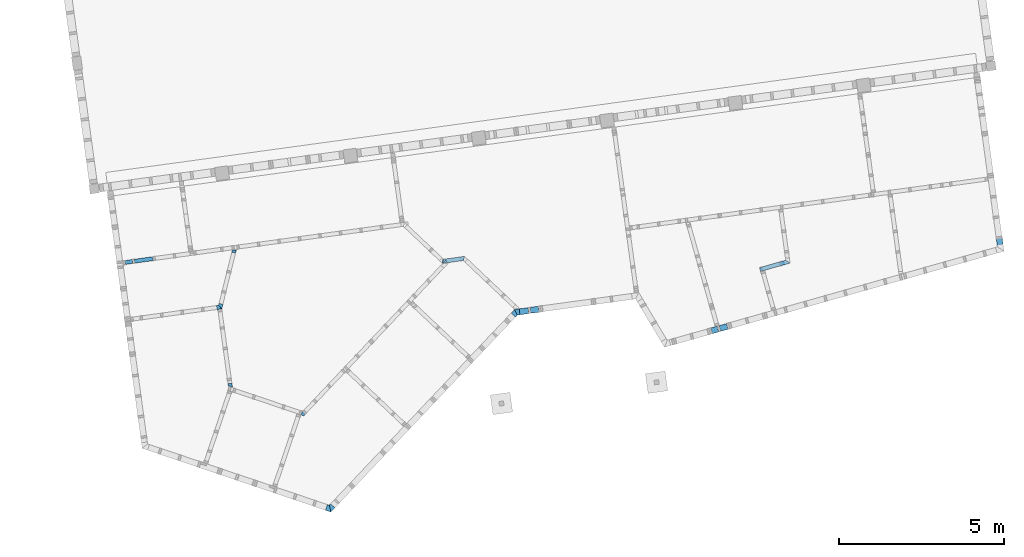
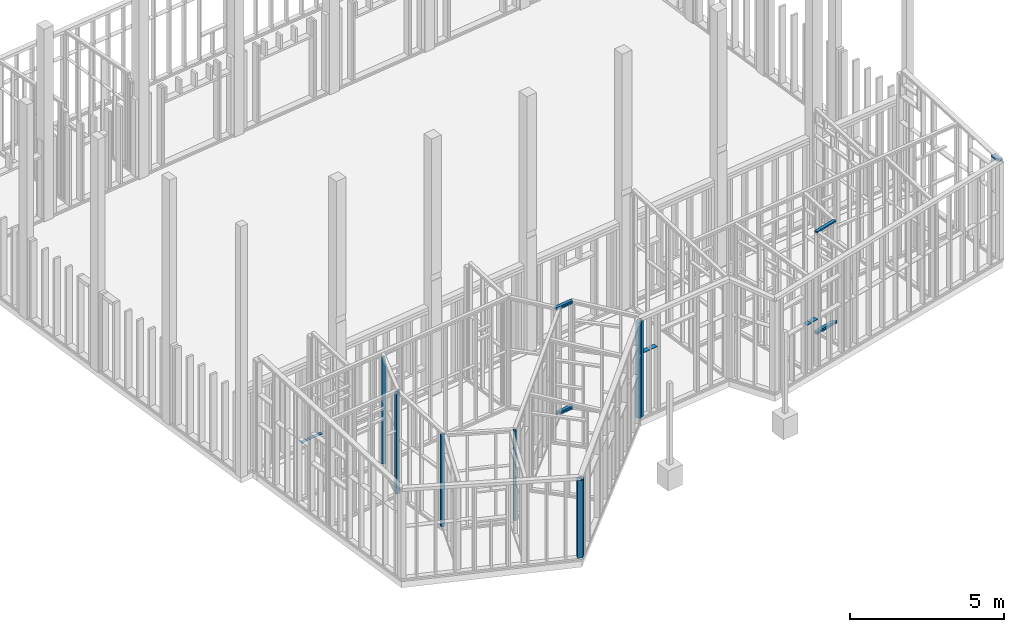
# One storey, part 22 of 24: 11 beams, 9 slabs.
"""IFC2X3 building model written with IfcOpenShell, lengths in metres."""

import ifcopenshell
import ifcopenshell.guid

model = None  # the IFC model being written
_history = None  # IfcOwnerHistory: only IFC2X3 demands one
_inside = {}  # id of a spatial element -> (the spatial element, [elements in it])
_under = {}  # id of a project, library or spatial element -> (it, [spatial elements below it])
_declared = {}  # id of a project -> (the project, [libraries it declares])
_typed = {}  # id of a type object -> (the type object, [elements of that type])
_made_of = {}  # id of a material, layer set ... -> (it, [elements and type objects made of it])


def new_model(schema):
    """Start an empty IFC model of exactly this schema.

    Asked for "IFC4X3", IfcOpenShell would pick the latest addendum, in which some entities
    have other attributes; the version numbers below select the first issue.
    IFC2X3 requires an IfcOwnerHistory on every rooted entity: one is made here for all.
    """
    global model, _history
    if schema == "IFC4X3":
        model = ifcopenshell.file(schema_version=(4, 3, 0, 0))
    else:
        model = ifcopenshell.file(schema=schema)
    _inside.clear()
    _under.clear()
    _declared.clear()
    _typed.clear()
    _made_of.clear()
    _history = None
    if model.schema == "IFC2X3":
        org = make("IfcOrganization", Name="unknown")
        user = make(
            "IfcPersonAndOrganization",
            ThePerson=make("IfcPerson", FamilyName="unknown"),
            TheOrganization=org,
        )
        app = make(
            "IfcApplication",
            ApplicationDeveloper=org,
            Version="unknown",
            ApplicationFullName="unknown",
            ApplicationIdentifier="unknown",
        )
        _history = make(
            "IfcOwnerHistory",
            OwningUser=user,
            OwningApplication=app,
            ChangeAction="ADDED",
            CreationDate=0,
        )
    return model


def make(cls, **values):
    """One entity of the class cls with the attributes given. An attribute that is None is left unset."""
    return model.create_entity(
        cls, **{name: value for name, value in values.items() if value is not None}
    )


def entity(cls, *values):
    """Any entity or typed value of the class cls, its attributes in the order of the schema. None: left unset."""
    e = model.create_entity(cls)
    for i, value in enumerate(values):
        if value is not None:
            e[i] = value
    return e


def rooted(cls, **values):
    """An entity with a GlobalId (a new one), such as an element, a storey or a relation."""
    return make(cls, GlobalId=ifcopenshell.guid.new(), OwnerHistory=_history, **values)


def si_unit(unit_type, name, prefix=None):
    """IfcSIUnit, for example si_unit("LENGTHUNIT", "METRE", prefix="MILLI")."""
    return make("IfcSIUnit", UnitType=unit_type, Prefix=prefix, Name=name)


def converted_unit(unit_type, name, factor, base, dimensions=None, offset=None):
    """IfcConversionBasedUnit, such as the inch: factor (a typed value) times the base unit."""
    return make(
        "IfcConversionBasedUnit"
        if offset is None
        else "IfcConversionBasedUnitWithOffset",
        ConversionOffset=offset,
        Dimensions=None
        if dimensions is None
        else entity("IfcDimensionalExponents", *dimensions),
        UnitType=unit_type,
        Name=name,
        ConversionFactor=make(
            "IfcMeasureWithUnit", ValueComponent=factor, UnitComponent=base
        ),
    )


def derived_unit(unit_type, elements):
    """IfcDerivedUnit: a product of units, each with its exponent."""
    return make(
        "IfcDerivedUnit",
        Elements=[
            make("IfcDerivedUnitElement", Unit=unit, Exponent=power)
            for unit, power in elements
        ],
        UnitType=unit_type,
    )


def money_unit(currency):
    """IfcMonetaryUnit."""
    return make("IfcMonetaryUnit", Currency=currency)


def assignment(units):
    """IfcUnitAssignment: the units of a project."""
    return None if units is None else make("IfcUnitAssignment", Units=units)


def point(xyz):
    """IfcCartesianPoint."""
    return None if xyz is None else make("IfcCartesianPoint", Coordinates=xyz)


def direction(xyz):
    """IfcDirection."""
    return None if xyz is None else make("IfcDirection", DirectionRatios=xyz)


def frame(location, z_axis=None, x_axis=None):
    """IfcAxis2Placement3D, a coordinate frame: its origin and axes. An axis left out is left unset."""
    return make(
        "IfcAxis2Placement3D",
        Location=point(location),
        Axis=direction(z_axis),
        RefDirection=direction(x_axis),
    )


def frame_2d(location, x_axis=None):
    """IfcAxis2Placement2D, a coordinate frame in the plane: its origin and x axis."""
    return make(
        "IfcAxis2Placement2D", Location=point(location), RefDirection=direction(x_axis)
    )


def origin_with_axes():
    """The frame at (0, 0, 0) with the z axis (0, 0, 1) and the x axis (1, 0, 0) written out."""
    return frame((0.0, 0.0, 0.0), z_axis=(0.0, 0.0, 1.0), x_axis=(1.0, 0.0, 0.0))


def place(relative_to, where):
    """IfcLocalPlacement: puts the frame where relative to a parent placement (None: the world)."""
    return make(
        "IfcLocalPlacement", PlacementRelTo=relative_to, RelativePlacement=where
    )


def context(
    kind, dimensions, precision=None, world=None, true_north=None, identifier=None
):
    """IfcGeometricRepresentationContext, for example the 3D "Model" context."""
    return make(
        "IfcGeometricRepresentationContext",
        ContextIdentifier=identifier,
        ContextType=kind,
        CoordinateSpaceDimension=dimensions,
        Precision=precision,
        WorldCoordinateSystem=world,
        TrueNorth=true_north,
    )


def subcontext(parent, identifier, kind, view, scale=None):
    """IfcGeometricRepresentationSubContext, for example "Body" below "Model"."""
    return make(
        "IfcGeometricRepresentationSubContext",
        ContextIdentifier=identifier,
        ContextType=kind,
        ParentContext=parent,
        TargetScale=scale,
        TargetView=view,
    )


def project(units=None, contexts=None):
    """IfcProject with its units and contexts."""
    return rooted(
        "IfcProject",
        Name="project",
        RepresentationContexts=contexts,
        UnitsInContext=assignment(units),
    )


def spatial(cls, under=None, at=None, **own):
    """A site, building, storey or space (cls), placed at a placement, below another one or the project."""
    s = rooted(cls, ObjectPlacement=at, **own)
    if under is not None:
        _under.setdefault(under.id(), (under, []))[1].append(s)
    return s


def profile(cls, at=None, kind="AREA", **sizes):
    """A parametric profile (cls). Its sizes go by their IFC names, for example OverallWidth=200.0."""
    return make(cls, ProfileType=kind, Position=at, **sizes)


def rectangle(**sizes):
    """IfcRectangleProfileDef."""
    return profile("IfcRectangleProfileDef", **sizes)


def extrude(swept, where, along, depth):
    """IfcExtrudedAreaSolid: the profile swept, set in the frame where, extruded along a direction by depth."""
    return make(
        "IfcExtrudedAreaSolid",
        SweptArea=swept,
        Position=where,
        ExtrudedDirection=direction(along),
        Depth=depth,
    )


def boolean(op, a, b):
    """IfcBooleanResult of two solids."""
    return make("IfcBooleanResult", Operator=op, FirstOperand=a, SecondOperand=b)


def clip(a, b, op="DIFFERENCE"):
    """IfcBooleanClippingResult: the solid a cut by the half space b."""
    return make(
        "IfcBooleanClippingResult", Operator=op, FirstOperand=a, SecondOperand=b
    )


def halfspace(plane, agree):
    """IfcHalfSpaceSolid: all space on one side of the plane z = 0 of the frame plane."""
    return make(
        "IfcHalfSpaceSolid",
        BaseSurface=make("IfcPlane", Position=plane),
        AgreementFlag=agree,
    )


def faces_of(points, faces, orient=None, outer=None):
    """IfcFace entities. A face is a list of loops; a loop is a list of indices into points, from 0.

    orient and outer hold one flag for each loop. By default every Orientation is true, the
    first loop of a face is its IfcFaceOuterBound and the others are IfcFaceBound.
    """
    made = []
    for i, loops in enumerate(faces):
        bounds = []
        for j, loop in enumerate(loops):
            is_outer = j == 0 if outer is None else outer[i][j]
            bounds.append(
                make(
                    "IfcFaceOuterBound" if is_outer else "IfcFaceBound",
                    Bound=make("IfcPolyLoop", Polygon=[points[k] for k in loop]),
                    Orientation=True if orient is None else orient[i][j],
                )
            )
        made.append(make("IfcFace", Bounds=bounds))
    return made


def faceted_brep(points, faces, orient=None, outer=None, voids=None):
    """IfcFacetedBrep: a solid bounded by flat faces; with voids (closed shells), ...WithVoids."""
    shared = [point(p) for p in points]
    hull = make("IfcClosedShell", CfsFaces=faces_of(shared, faces, orient, outer))
    if voids is None:
        return make("IfcFacetedBrep", Outer=hull)
    return make(
        "IfcFacetedBrepWithVoids",
        Outer=hull,
        Voids=[
            make(cls, CfsFaces=faces_of(shared, fs, o, b)) for cls, fs, o, b in voids
        ],
    )


def shape(context_of_items, identifier, shape_type, items):
    """IfcShapeRepresentation: the items that make up one representation, for example the "Body"."""
    return make(
        "IfcShapeRepresentation",
        ContextOfItems=context_of_items,
        RepresentationIdentifier=identifier,
        RepresentationType=shape_type,
        Items=items,
    )


def material(Name=None, Category=None):
    """IfcMaterial."""
    return make("IfcMaterial", Name=Name, Category=Category)


def made_of(thing, what):
    """Note that an element or type object is made of a material, layer set ...; save() writes the relation."""
    if what is not None:
        _made_of.setdefault(what.id(), (what, []))[1].append(thing)
    return thing


def type_object(cls, material=None, **own):
    """A type object (cls), such as IfcWallType, which elements share."""
    return made_of(rooted(cls, **own), material)


def element(
    cls,
    number,
    at=None,
    inside=None,
    cuts=None,
    type_object=None,
    material=None,
    context=None,
    identifier="Body",
    shape_type=None,
    held_by="IfcProductDefinitionShape",
    body=None,
    shapes=None,
    **own,
):
    """One element of the class cls, such as IfcWall. Its Tag is "e" and its number.

    at: its placement. inside: the storey or other place that contains it. cuts: it is an
    opening in that element (IfcRelVoidsElement). A single representation is given by context,
    identifier, shape_type and body (its items); several are given by shapes. held_by: the class
    of the entity that holds the representations. save() writes the other relations.
    """
    e = rooted(cls, Tag="e%d" % number, ObjectPlacement=at, **own)
    if body is not None:
        shapes = [shape(context, identifier, shape_type, body)]
    if shapes is not None:
        e.Representation = make(held_by, Representations=shapes)
    if inside is not None:
        _inside.setdefault(inside.id(), (inside, []))[1].append(e)
    if cuts is not None:
        rooted(
            "IfcRelVoidsElement", RelatingBuildingElement=cuts, RelatedOpeningElement=e
        )
    if type_object is not None:
        _typed.setdefault(type_object.id(), (type_object, []))[1].append(e)
    return made_of(e, material)


def aggregate(whole, parts):
    """IfcRelAggregates: a whole, such as a stair, and the parts it consists of."""
    return rooted("IfcRelAggregates", RelatingObject=whole, RelatedObjects=parts)


def save(model, path):
    """Write the relations noted so far, then the file.

    IfcRelAggregates (storeys below a building ...), IfcRelContainedInSpatialStructure (elements
    in a storey), IfcRelDefinesByType, IfcRelAssociatesMaterial and IfcRelDeclares: one each for
    every whole, place, type object, material and project.
    """
    for whole, parts in _under.values():
        aggregate(whole, parts)
    for where, things in _inside.values():
        rooted(
            "IfcRelContainedInSpatialStructure",
            RelatedElements=things,
            RelatingStructure=where,
        )
    for kind, things in _typed.values():
        rooted("IfcRelDefinesByType", RelatedObjects=things, RelatingType=kind)
    for what, things in _made_of.values():
        rooted("IfcRelAssociatesMaterial", RelatedObjects=things, RelatingMaterial=what)
    for by, libraries in _declared.values():
        rooted("IfcRelDeclares", RelatingContext=by, RelatedDefinitions=libraries)
    model.write(path)


model = new_model("IFC2X3")

# Units and contexts
model_context = context("Model", 3, precision=1e-05, world=origin_with_axes(), true_north=direction((0.0, 1.0)))
body_context = subcontext(model_context, "Body", "Model", "MODEL_VIEW")
ifc_project = project(units=[si_unit("LENGTHUNIT", "METRE"), si_unit("AREAUNIT", "SQUARE_METRE"), si_unit("VOLUMEUNIT", "CUBIC_METRE"), converted_unit("PLANEANGLEUNIT", "DEGREE", entity("IfcPlaneAngleMeasure", 0.0174532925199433), si_unit("PLANEANGLEUNIT", "RADIAN"), dimensions=[0, 0, 0, 0, 0, 0, 0]), money_unit("EUR"), converted_unit("TIMEUNIT", "Year", entity("IfcTimeMeasure", 31557600.0), si_unit("TIMEUNIT", "SECOND"), dimensions=[0, 0, 1, 0, 0, 0, 0]), si_unit("MASSUNIT", "GRAM", prefix="KILO"), si_unit("THERMODYNAMICTEMPERATUREUNIT", "DEGREE_CELSIUS"), si_unit("LUMINOUSINTENSITYUNIT", "LUMEN"), si_unit("ENERGYUNIT", "JOULE", prefix="MEGA"), derived_unit("THERMALCONDUCTANCEUNIT", [(si_unit("POWERUNIT", "WATT"), 1), (si_unit("LENGTHUNIT", "METRE"), -1), (si_unit("THERMODYNAMICTEMPERATUREUNIT", "KELVIN"), -1)]), derived_unit("SPECIFICHEATCAPACITYUNIT", [(si_unit("ENERGYUNIT", "JOULE"), 1), (si_unit("MASSUNIT", "GRAM", prefix="KILO"), -1), (si_unit("THERMODYNAMICTEMPERATUREUNIT", "KELVIN"), -1)]), derived_unit("MASSDENSITYUNIT", [(si_unit("MASSUNIT", "GRAM", prefix="KILO"), 1), (si_unit("VOLUMEUNIT", "CUBIC_METRE"), -1)])], contexts=[model_context])

# Site, building, storey
site_placement = place(None, origin_with_axes())
site = spatial("IfcSite", under=ifc_project, at=site_placement, Name="Gelände", CompositionType="ELEMENT")
building_placement = place(site_placement, origin_with_axes())
building = spatial("IfcBuilding", under=site, at=building_placement, Name="Gebäude", CompositionType="ELEMENT")
storey_placement = place(building_placement, origin_with_axes())
storey = spatial("IfcBuildingStorey", under=building, at=storey_placement, Name="EG", CompositionType="ELEMENT", Elevation=0.0)

# Beams
ifc_material_1 = material(Name="Bauholz")
beam_type_1 = type_object("IfcBeamType", Name="Bauholz 120 x 60", PredefinedType="NOTDEFINED")
beam_1_placement = place(storey_placement, frame((107.5596450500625, -153.2186816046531, -0.04299999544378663), z_axis=(0.0, 0.0, 1.0), x_axis=(-0.2723508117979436, 0.9621980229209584, 0.0)))
element("IfcBeam", 1, at=beam_1_placement, inside=storey, type_object=beam_type_1, material=ifc_material_1, Name="Unterzug-021", context=body_context, shape_type="CSG", body=[
    boolean("DIFFERENCE", extrude(rectangle(XDim=0.06, YDim=0.12, at=frame_2d((-0.03, 0.0), x_axis=(1.0, 0.0))), frame((0.0, -0.05217280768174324, 0.0), z_axis=(0.0, 1.0, 0.0), x_axis=(0.0, 0.0, 1.0)), (0.0, 0.0, 1.0), 0.9237465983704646), faceted_brep([(0.06000000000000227, 0.05215324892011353, 0.0), (-0.06000000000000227, -0.05215280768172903, 0.0), (-0.05999999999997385, -0.05217280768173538, 0.0), (0.06000000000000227, -0.05217280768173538, 0.0), (-0.06000000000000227, -0.05215280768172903, -0.06), (0.06000000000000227, 0.05215324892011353, -0.06), (-0.05999999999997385, -0.05217280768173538, -0.06), (0.06000000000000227, -0.05217280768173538, -0.06)], [[[0, 1, 2, 3]], [[4, 1, 0, 5]], [[1, 4, 6, 2]], [[6, 7, 3, 2]], [[5, 0, 3, 7]], [[4, 5, 7, 6]]])),
])
beam_2_placement = place(storey_placement, frame((107.5596448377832, -153.2186816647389, 3.937425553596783), z_axis=(0.0, 0.0, 1.0), x_axis=(-0.2723508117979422, 0.9621980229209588, 0.0)))
element("IfcBeam", 2, at=beam_2_placement, inside=storey, type_object=beam_type_1, material=ifc_material_1, Name="Unterzug-021", context=body_context, shape_type="CSG", body=[
    boolean("DIFFERENCE", clip(clip(extrude(rectangle(XDim=0.06, YDim=0.12, at=frame_2d((-0.03, 0.0), x_axis=(1.0, 0.0))), frame((0.0, -0.05099903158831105, 0.0009980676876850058), z_axis=(0.0, 0.9998085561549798, -0.01956657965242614), x_axis=(0.0, 0.01956657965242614, 0.9998085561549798)), (0.0, 0.0, 1.0), 0.9273297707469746), halfspace(frame((0.0, 0.0, 0.0), z_axis=(0.0, 1.0, 0.0), x_axis=(0.0, 0.0, 1.0)), True)), halfspace(frame((0.0, 0.8728326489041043, 0.0), z_axis=(0.0, -1.0, 0.0), x_axis=(0.0, 0.0, -1.0)), True)), faceted_brep([(0.05999999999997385, 0.05215303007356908, -0.001020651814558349), (-0.00490487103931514, 0.0, 0.0), (0.05999999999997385, 0.0, 0.0), (0.004904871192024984, 0.0, -0.06001148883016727), (0.05999999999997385, 0.0442706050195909, -0.06087787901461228), (0.05999999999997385, 0.0, -0.06001148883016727)], [[[0, 1, 2]], [[3, 1, 0, 4]], [[1, 3, 5, 2]], [[4, 0, 2, 5]], [[3, 4, 5]]])),
])
beam_3_placement = place(storey_placement, frame((97.13570908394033, -153.2084280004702, -0.04300000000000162), z_axis=(0.0, 0.0, 1.0), x_axis=(0.1357110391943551, -0.9907484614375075, 0.0)))
element("IfcBeam", 3, at=beam_3_placement, inside=storey, type_object=beam_type_1, material=ifc_material_1, Name="Unterzug-021", context=body_context, shape_type="CSG", body=[
    boolean("DIFFERENCE", boolean("DIFFERENCE", boolean("DIFFERENCE", extrude(rectangle(XDim=0.06, YDim=0.12, at=frame_2d((-0.03, 0.0), x_axis=(1.0, 0.0))), frame((0.0, -0.02878469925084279, 0.0), z_axis=(0.0, 1.0, 0.0), x_axis=(0.0, 0.0, 1.0)), (0.0, 0.0, 1.0), 0.6969990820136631), faceted_brep([(0.06000000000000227, -0.0287646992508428, 0.0), (-0.06000000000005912, 0.02876453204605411, 0.0), (-0.05999999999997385, -0.02878469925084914, 0.0), (0.06000000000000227, -0.02878469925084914, 0.0), (-0.06000000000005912, 0.02876453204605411, -0.06), (0.06000000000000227, -0.0287646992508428, -0.06), (-0.05999999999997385, -0.02878469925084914, -0.06), (0.06000000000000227, -0.02878469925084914, -0.06)], [[[0, 1, 2, 3]], [[4, 1, 0, 5]], [[1, 4, 6, 2]], [[6, 7, 3, 2]], [[5, 0, 3, 7]], [[4, 5, 7, 6]]])), faceted_brep([(0.05999999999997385, -0.01878219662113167, 0.0), (0.05999999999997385, -0.01878219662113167, -0.06), (0.06000000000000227, 0.1390214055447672, -0.06), (0.06000000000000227, 0.1390214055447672, 0.0), (-0.01704515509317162, 0.07713542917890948, 0.0), (-0.01704515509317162, 0.07713542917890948, -0.06)], [[[0, 1, 2, 3]], [[0, 4, 5, 1]], [[5, 2, 1]], [[4, 3, 2, 5]], [[4, 0, 3]]])), faceted_brep([(-0.06000000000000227, 0.6681943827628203, -0.06), (-0.06000000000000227, 0.6681943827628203, 0.0), (-0.06000000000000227, 0.6682143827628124, 0.0), (-0.06000000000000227, 0.6682143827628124, -0.06), (0.06000000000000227, 0.6106651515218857, 0.0), (0.06000000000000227, 0.6106651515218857, -0.06), (0.06000000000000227, 0.6682143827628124, 0.0), (0.06000000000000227, 0.6682143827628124, -0.06)], [[[0, 1, 2, 3]], [[4, 1, 0, 5]], [[1, 4, 6, 2]], [[6, 7, 3, 2]], [[5, 0, 3, 7]], [[4, 5, 7, 6]]])),
])
beam_4_placement = place(storey_placement, frame((97.1357090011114, -153.208428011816, 4.133874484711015), z_axis=(0.0, 0.0, 1.0), x_axis=(0.1357110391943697, -0.9907484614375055, 0.0)))
element("IfcBeam", 4, at=beam_4_placement, inside=storey, type_object=beam_type_1, material=ifc_material_1, Name="Unterzug-021", context=body_context, shape_type="CSG", body=[
    boolean("DIFFERENCE", boolean("DIFFERENCE", boolean("DIFFERENCE", extrude(rectangle(XDim=0.06, YDim=0.12, at=frame_2d((-0.03, 0.0), x_axis=(1.0, 0.0))), frame((0.0, -0.02917327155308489, 0.0), z_axis=(0.0, 1.0, 0.0), x_axis=(0.0, 0.0, 1.0)), (0.0, 0.0, 1.0), 0.6977366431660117), faceted_brep([(0.06000000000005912, -0.02532766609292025, 0.0), (-0.06000000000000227, 0.02911352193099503, 0.0), (-0.05999999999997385, -0.02917327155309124, 0.0), (0.06000000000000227, -0.02917327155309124, 0.0), (-0.06000000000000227, 0.02528791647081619, -0.05999999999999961), (0.06000000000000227, -0.02915327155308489, -0.05999999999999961), (-0.05999999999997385, -0.02917327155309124, -0.05999999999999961), (0.06000000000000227, -0.02917327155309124, -0.05999999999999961)], [[[0, 1, 2, 3]], [[4, 1, 0, 5]], [[1, 4, 6, 2]], [[6, 7, 3, 2]], [[5, 0, 3, 7]], [[4, 5, 7, 6]]])), faceted_brep([(0.06000000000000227, -0.01878211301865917, -0.01500666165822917), (0.06000000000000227, -0.01878211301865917, -0.05999999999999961), (0.06000000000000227, 0.1403064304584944, -0.05999999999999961), (0.06000000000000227, 0.1403064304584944, -0.004090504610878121), (-0.01767250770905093, 0.07791653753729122, -0.05999999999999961), (-0.01767250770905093, 0.07791653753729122, -0.004090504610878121)], [[[0, 1, 2, 3]], [[4, 1, 0, 5]], [[4, 2, 1]], [[3, 2, 4, 5]], [[0, 3, 5]]])), faceted_brep([(-0.05999999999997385, 0.6647177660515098, -0.05999999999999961), (-0.06000000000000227, 0.668543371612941, 0.0), (-0.06000000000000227, 0.6685633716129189, 0.0), (-0.06000000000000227, 0.6685633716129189, -0.05999999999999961), (0.06000000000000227, 0.6141021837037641, 0.0), (0.0600000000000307, 0.6102765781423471, -0.05999999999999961), (0.06000000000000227, 0.6685633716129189, 0.0), (0.06000000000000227, 0.6685633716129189, -0.05999999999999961)], [[[0, 1, 2, 3]], [[4, 1, 0, 5]], [[1, 4, 6, 2]], [[6, 7, 3, 2]], [[5, 0, 3, 7]], [[4, 5, 7, 6]]])),
])
beam_type_2 = type_object("IfcBeamType", Name="Bauholz 120 x 15", PredefinedType="NOTDEFINED")
beam_5_placement = place(storey_placement, frame((87.53172956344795, -153.2432850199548, 2.149999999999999), z_axis=(0.0, 0.0, 1.0), x_axis=(0.1357111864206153, -0.9907484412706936, 0.0)))
element("IfcBeam", 5, at=beam_5_placement, inside=storey, type_object=beam_type_2, material=ifc_material_1, Name="Unterzug-021", context=body_context, shape_type="CSG", body=[
    boolean("DIFFERENCE", extrude(rectangle(XDim=0.015, YDim=0.12, at=frame_2d((-0.0075, 0.0), x_axis=(1.0, 0.0))), frame((0.0, 0.0, 0.0), z_axis=(0.0, 1.0, 0.0), x_axis=(0.0, 0.0, 1.0)), (0.0, 0.0, 1.0), 0.8474194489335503), faceted_brep([(0.06000003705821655, 0.282419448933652, -0.01500000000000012), (0.06000003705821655, 0.282419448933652, 0.0), (0.06000003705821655, 0.2224194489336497, 0.0), (0.06000003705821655, 0.2224194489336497, -0.01500000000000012), (-0.05999996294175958, 0.2824194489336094, 0.0), (-0.05999996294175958, 0.2824194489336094, -0.01500000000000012), (-0.05999996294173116, 0.2224194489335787, 0.0), (-0.05999996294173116, 0.2224194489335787, -0.01500000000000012)], [[[0, 1, 2, 3]], [[4, 1, 0, 5]], [[1, 4, 6, 2]], [[7, 3, 2, 6]], [[5, 0, 3, 7]], [[4, 5, 7, 6]]])),
])
ifc_material_2 = material(Name="Holz, Bauholz")
beam_type_3 = type_object("IfcBeamType", Name="Holz, Bauholz 120 x 60", PredefinedType="NOTDEFINED")
beam_6_placement = place(storey_placement, frame((107.5596450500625, -153.2186816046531, -0.1029999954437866), z_axis=(0.0, 0.0, 1.0), x_axis=(-0.2723508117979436, 0.9621980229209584, 0.0)))
element("IfcBeam", 6, at=beam_6_placement, inside=storey, type_object=beam_type_3, material=ifc_material_2, Name="Unterzug-021", context=body_context, shape_type="CSG", body=[
    boolean("DIFFERENCE", extrude(rectangle(XDim=0.06, YDim=0.12, at=frame_2d((-0.03, 0.0), x_axis=(1.0, 0.0))), frame((0.0, -0.05217280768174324, 0.0), z_axis=(0.0, 1.0, 0.0), x_axis=(0.0, 0.0, 1.0)), (0.0, 0.0, 1.0), 0.9237465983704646), faceted_brep([(0.06000000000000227, 0.05215324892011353, 0.0), (-0.06000000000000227, -0.05215280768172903, 0.0), (-0.05999999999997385, -0.05217280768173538, 0.0), (0.06000000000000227, -0.05217280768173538, 0.0), (-0.06000000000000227, -0.05215280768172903, -0.06), (0.06000000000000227, 0.05215324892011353, -0.06), (-0.05999999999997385, -0.05217280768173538, -0.06), (0.06000000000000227, -0.05217280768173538, -0.06)], [[[0, 1, 2, 3]], [[4, 1, 0, 5]], [[1, 4, 6, 2]], [[6, 7, 3, 2]], [[5, 0, 3, 7]], [[4, 5, 7, 6]]])),
])
beam_7_placement = place(storey_placement, frame((97.13570908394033, -153.2084280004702, -0.1030000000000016), z_axis=(0.0, 0.0, 1.0), x_axis=(0.1357110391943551, -0.9907484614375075, 0.0)))
element("IfcBeam", 7, at=beam_7_placement, inside=storey, type_object=beam_type_3, material=ifc_material_2, Name="Unterzug-021", context=body_context, shape_type="CSG", body=[
    boolean("DIFFERENCE", boolean("DIFFERENCE", boolean("DIFFERENCE", extrude(rectangle(XDim=0.06, YDim=0.12, at=frame_2d((-0.03, 0.0), x_axis=(1.0, 0.0))), frame((0.0, -0.02878469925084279, 0.0), z_axis=(0.0, 1.0, 0.0), x_axis=(0.0, 0.0, 1.0)), (0.0, 0.0, 1.0), 0.6969990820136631), faceted_brep([(0.06000000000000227, -0.0287646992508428, 0.0), (-0.06000000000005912, 0.02876453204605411, 0.0), (-0.05999999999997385, -0.02878469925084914, 0.0), (0.06000000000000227, -0.02878469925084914, 0.0), (-0.06000000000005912, 0.02876453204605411, -0.06), (0.06000000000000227, -0.0287646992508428, -0.06), (-0.05999999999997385, -0.02878469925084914, -0.06), (0.06000000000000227, -0.02878469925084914, -0.06)], [[[0, 1, 2, 3]], [[4, 1, 0, 5]], [[1, 4, 6, 2]], [[6, 7, 3, 2]], [[5, 0, 3, 7]], [[4, 5, 7, 6]]])), faceted_brep([(0.05999999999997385, -0.01878219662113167, 0.0), (0.05999999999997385, -0.01878219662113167, -0.06), (0.06000000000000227, 0.1390214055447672, -0.06), (0.06000000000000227, 0.1390214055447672, 0.0), (-0.01704515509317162, 0.07713542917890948, 0.0), (-0.01704515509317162, 0.07713542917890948, -0.06)], [[[0, 1, 2, 3]], [[0, 4, 5, 1]], [[5, 2, 1]], [[4, 3, 2, 5]], [[4, 0, 3]]])), faceted_brep([(-0.06000000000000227, 0.6681943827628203, -0.06), (-0.06000000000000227, 0.6681943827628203, 0.0), (-0.06000000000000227, 0.6682143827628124, 0.0), (-0.06000000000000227, 0.6682143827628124, -0.06), (0.06000000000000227, 0.6106651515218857, 0.0), (0.06000000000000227, 0.6106651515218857, -0.06), (0.06000000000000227, 0.6682143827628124, 0.0), (0.06000000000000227, 0.6682143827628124, -0.06)], [[[0, 1, 2, 3]], [[4, 1, 0, 5]], [[1, 4, 6, 2]], [[6, 7, 3, 2]], [[5, 0, 3, 7]], [[4, 5, 7, 6]]])),
])
beam_8_placement = place(storey_placement, frame((97.1357090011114, -153.208428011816, 4.073874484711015), z_axis=(0.0, 0.0, 1.0), x_axis=(0.1357110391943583, -0.990748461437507, 0.0)))
element("IfcBeam", 8, at=beam_8_placement, inside=storey, type_object=beam_type_3, material=ifc_material_2, Name="Unterzug-021", context=body_context, shape_type="CSG", body=[
    boolean("DIFFERENCE", boolean("DIFFERENCE", extrude(rectangle(XDim=0.06, YDim=0.12, at=frame_2d((-0.03, 0.0), x_axis=(1.0, 0.0))), frame((0.0, -0.02921302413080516, 0.0), z_axis=(0.0, 1.0, 0.0), x_axis=(0.0, 0.0, 1.0)), (0.0, 0.0, 1.0), 0.6634095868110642), faceted_brep([(0.05999999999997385, -0.02921302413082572, -0.05999999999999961), (0.05999999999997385, -0.02921302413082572, 0.0), (-0.06000000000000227, -0.0292130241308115, 0.0), (-0.06000000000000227, -0.0292130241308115, -0.05999999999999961), (0.05999999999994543, -0.02876461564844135, -0.05999999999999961), (0.05999999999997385, -0.02876461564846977, -0.005032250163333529), (0.05999999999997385, -0.01878211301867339, -0.005032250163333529), (0.05999999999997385, -0.01878211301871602, -0.05999999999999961), (0.05999999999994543, 0.1390214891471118, -0.05999999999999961), (0.05999999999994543, 0.1390214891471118, -0.004410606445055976), (0.05999999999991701, 0.140306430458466, -0.004322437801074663), (0.05999999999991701, 0.140306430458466, 0.0), (0.05999999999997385, -0.01878211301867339, 0.0), (0.05999999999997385, -0.01878211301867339, -0.004195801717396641), (0.05999999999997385, -0.02876461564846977, -0.003510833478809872), (0.05999999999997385, -0.02876461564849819, 0.0), (0.05969078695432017, -0.02901298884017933, 0.0), (-0.004171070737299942, -4.03604889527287e-05, 0.0), (-0.04012913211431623, 0.04472574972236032, 0.0), (-0.04012913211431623, -0.001412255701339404, 0.0), (-0.06000000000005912, 0.02332604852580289, 0.0), (-0.06000000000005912, -0.02919302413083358, -0.05756642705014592), (-0.06000000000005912, -0.02919302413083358, -0.05999999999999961), (-0.06000000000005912, 0.02332604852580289, -0.0571932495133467), (-0.0600000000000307, 0.02876461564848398, -0.05756642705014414), (-0.04268423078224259, -0.02919302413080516, -0.05999999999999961), (-0.04268423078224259, 0.04267338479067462, -0.05999999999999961), (0.0150419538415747, -0.02919302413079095, -0.05999999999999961), (0.05946665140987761, -0.02919302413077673, -0.05999999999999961), (0.05946665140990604, -0.02919302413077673, -0.005032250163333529), (-0.004322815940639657, -0.02919302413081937, -0.005032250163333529), (-0.004322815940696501, 0.06129679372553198, -0.005032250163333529), (-0.01027445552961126, 0.0687063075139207, -0.004195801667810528), (-0.01767250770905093, 0.0779165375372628, -1.063949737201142e-06), (-0.01767250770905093, 0.0779165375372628, -0.004322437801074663), (-0.01704515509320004, 0.0771355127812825, -0.004410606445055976), (-0.01704515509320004, 0.07713551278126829, -0.05999999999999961), (0.05951614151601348, -0.02915327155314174, -0.003442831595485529), (-0.01781442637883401, -0.02919302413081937, -0.003136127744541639), (-0.01781442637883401, -0.02919302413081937, -0.0571932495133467)], [[[0, 1, 2, 3]], [[0, 4, 5, 6, 7, 8, 9, 10, 11, 12, 13, 14, 15, 1]], [[15, 16, 17, 18, 19, 20, 2, 1]], [[21, 22, 3, 2, 20, 23, 24]], [[4, 0, 3, 22, 25, 26, 27, 28]], [[5, 4, 28, 29]], [[5, 29, 30, 31, 6]], [[7, 6, 31, 32, 13, 12, 33, 34, 35, 36]], [[8, 7, 36]], [[9, 8, 36, 35]], [[9, 35, 34, 10]], [[11, 10, 34, 33]], [[33, 12, 11]], [[37, 14, 13, 32, 18, 17]], [[14, 37, 16, 15]], [[16, 37, 17]], [[30, 38, 19, 18, 32, 31]], [[38, 39, 23, 20, 19]], [[22, 21, 25]], [[39, 27, 26, 24, 23]], [[25, 21, 24, 26]], [[28, 27, 39, 38, 30, 29]]])), faceted_brep([(0.05951614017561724, 0.6102765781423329, -0.00344284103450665), (0.03502662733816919, 0.5906055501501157, -1.063949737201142e-06), (0.02993163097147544, 0.5865130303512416, -0.05964410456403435), (0.03246395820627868, 0.5885471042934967, -0.05999999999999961), (0.05999999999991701, 0.6106652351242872, -0.05999999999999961), (0.05999999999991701, 0.610665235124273, 0.0), (0.05969078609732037, 0.6104168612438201, 0.0), (0.00718908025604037, 0.6341964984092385, -0.0006141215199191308), (1.251344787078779e-05, 0.6341964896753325, -1.063949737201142e-06), (-0.008369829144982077, 0.634196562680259, -0.05964410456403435), (-0.00420364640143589, 0.6341965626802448, -0.05999999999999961), (0.05999999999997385, 0.634196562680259, -0.05999999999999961), (0.05999999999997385, 0.634196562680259, 0.0), (0.007275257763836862, 0.6341964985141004, -9.351362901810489e-07)], [[[0, 1, 2, 3, 4, 5, 6]], [[1, 0, 7, 8]], [[2, 1, 8, 9]], [[3, 2, 9, 10]], [[11, 4, 3, 10]], [[4, 11, 12, 5]], [[6, 5, 12, 13]], [[0, 6, 13, 7]], [[12, 11, 10, 9, 8, 7, 13]]])),
])
ifc_material_3 = material(Name="Holz, Bauholz-hart_UD")
beam_type_4 = type_object("IfcBeamType", Name="Holz, Bauholz-hart_UD 180 x 60", PredefinedType="NOTDEFINED")
beam_9_placement = place(storey_placement, frame((113.9406321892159, -152.4664816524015, 3.856074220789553), z_axis=(0.0, 0.0, 1.0), x_axis=(-0.9907484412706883, -0.1357111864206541, 0.0)))
element("IfcBeam", 9, at=beam_9_placement, inside=storey, type_object=beam_type_4, material=ifc_material_3, Name="Unterzug-035", context=body_context, shape_type="CSG", body=[
    boolean("DIFFERENCE", clip(clip(extrude(rectangle(XDim=0.06, YDim=0.18, at=frame_2d((-0.03, 0.0), x_axis=(1.0, 0.0))), frame((0.0, -0.03542768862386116, 0.004979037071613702), z_axis=(0.0, 0.9902680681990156, -0.1391731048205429), x_axis=(0.0, 0.1391731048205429, 0.9902680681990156)), (0.0, 0.0, 1.0), 0.5075716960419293), halfspace(frame((0.0, 0.0, 0.0), z_axis=(0.0, 1.0, 0.0), x_axis=(0.0, 0.0, 1.0)), True)), halfspace(frame((0.0, 0.3741398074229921, 0.0), z_axis=(0.0, -1.0, 0.0), x_axis=(0.0, 0.0, -1.0)), True)), faceted_brep([(-0.008755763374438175, 0.3741398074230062, -0.1118451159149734), (-8.468577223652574e-05, 0.3741398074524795, -0.05258192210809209), (0.09000000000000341, 0.3741398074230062, -0.0525819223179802), (0.08999999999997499, 0.3741398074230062, -0.1131715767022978), (-0.07631004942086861, 0.3741398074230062, -0.1131715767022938), (-0.07899934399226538, 0.3741398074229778, -0.1104838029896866), (-3.37402146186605e-05, 0.3657414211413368, -0.1119912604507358), (0.07616734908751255, 0.2939649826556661, -0.1019037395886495), (0.08388095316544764, 0.295049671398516, -0.04146652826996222), (0.0900000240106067, 0.2959101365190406, -0.04158748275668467), (0.09000002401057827, 0.2959101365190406, -0.1021771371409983), (-0.0763100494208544, 0.355015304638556, -0.1104838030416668)], [[[0, 1, 2, 3, 4, 5]], [[1, 0, 6, 7, 8]], [[8, 9, 2, 1]], [[9, 10, 3, 2]], [[11, 4, 3, 10, 7, 6]], [[5, 4, 11]], [[0, 5, 11, 6]], [[7, 10, 9, 8]]])),
])
beam_type_5 = type_object("IfcBeamType", Name="Bauholz 180 x 15", PredefinedType="NOTDEFINED")
beam_10_placement = place(storey_placement, frame((99.4505296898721, -154.7350202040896, 2.471999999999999), z_axis=(0.0, 0.0, 1.0), x_axis=(0.1357111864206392, -0.9907484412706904, 0.0)))
element("IfcBeam", 10, at=beam_10_placement, inside=storey, type_object=beam_type_5, material=ifc_material_1, Name="Unterzug-021", context=body_context, shape_type="CSG", body=[
    boolean("DIFFERENCE", extrude(rectangle(XDim=0.015, YDim=0.18, at=frame_2d((-0.0075, 0.0), x_axis=(1.0, 0.0))), frame((0.0, 0.0, 0.0), z_axis=(0.0, 1.0, 0.0), x_axis=(0.0, 0.0, 1.0)), (0.0, 0.0, 1.0), 0.5814288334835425), faceted_brep([(0.09000002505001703, 0.3329648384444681, -0.01500000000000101), (0.09000002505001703, 0.3329648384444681, 0.0), (0.09000002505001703, 0.2729648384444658, 0.0), (0.09000002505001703, 0.2729648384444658, -0.01500000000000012), (-0.08999997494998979, 0.3329648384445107, 0.0), (-0.08999997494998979, 0.3329648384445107, -0.01500000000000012), (-0.08999997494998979, 0.2729648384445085, 0.0), (-0.08999997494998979, 0.2729648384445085, -0.01500000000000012)], [[[0, 1, 2, 3]], [[4, 1, 0, 5]], [[1, 4, 6, 2]], [[7, 3, 2, 6]], [[5, 0, 3, 7]], [[4, 5, 7, 6]]])),
])
beam_11_placement = place(storey_placement, frame((105.7290812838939, -155.1758178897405, 1.871999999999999), z_axis=(0.0, 0.0, 1.0), x_axis=(-0.2723508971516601, 0.9621979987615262, 0.0)))
element("IfcBeam", 11, at=beam_11_placement, inside=storey, type_object=beam_type_5, material=ifc_material_1, Name="Unterzug-021", context=body_context, shape_type="CSG", body=[
    boolean("DIFFERENCE", extrude(rectangle(XDim=0.015, YDim=0.18, at=frame_2d((-0.0075, 0.0), x_axis=(1.0, 0.0))), frame((0.0, 0.0, 0.0), z_axis=(0.0, 1.0, 0.0), x_axis=(0.0, 0.0, 1.0)), (0.0, 0.0, 1.0), 0.4938139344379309), faceted_brep([(-0.0899993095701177, 0.2321832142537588, -0.0149999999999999), (-0.0899993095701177, 0.2321832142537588, 0.0), (-0.08999872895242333, 0.2921832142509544, 0.0), (-0.08999872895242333, 0.2921832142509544, -0.0149999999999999), (0.09000069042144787, 0.2321814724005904, 0.0), (0.09000069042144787, 0.2321814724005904, -0.0149999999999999), (0.09000127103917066, 0.2921814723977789, 0.0), (0.09000127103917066, 0.2921814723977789, -0.0149999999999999)], [[[0, 1, 2, 3]], [[4, 1, 0, 5]], [[1, 4, 6, 2]], [[7, 3, 2, 6]], [[5, 0, 3, 7]], [[4, 5, 7, 6]]])),
])

# Slabs
slab_type = type_object("IfcSlabType", Name="Holz, Bauholz", PredefinedType="FLOOR")
slab_1_placement = place(storey_placement, frame((-0.01601392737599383, 0.1169083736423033, 0.0), z_axis=(0.0, 0.0, 1.0), x_axis=(1.0, 0.0, 0.0)))
element("IfcSlab", 12, at=slab_1_placement, inside=storey, type_object=slab_type, material=ifc_material_2, Name="Decke-033", PredefinedType="FLOOR", context=body_context, shape_type="Brep", body=[
    faceted_brep([(99.31121243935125, -154.7823651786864, -0.04300000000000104), (99.39839465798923, -154.9521039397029, -0.04300000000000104), (99.39839465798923, -154.9521039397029, 3.755), (99.31121243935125, -154.7823651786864, 3.755), (99.45432960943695, -154.7627612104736, -0.04300000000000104), (99.47875762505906, -154.9410959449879, -0.04300000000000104), (99.47875762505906, -154.9410959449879, 3.755), (99.45432960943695, -154.7627612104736, 3.755)], [[[0, 1, 2, 3]], [[1, 0, 4, 5]], [[2, 1, 5, 6]], [[3, 2, 6, 7]], [[0, 3, 7, 4]], [[5, 4, 7, 6]]]),
])
slab_2_placement = place(storey_placement, frame((-0.01601392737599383, 0.1169083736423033, 0.0), z_axis=(0.0, 0.0, 1.0), x_axis=(1.0, 0.0, 0.0)))
element("IfcSlab", 13, at=slab_2_placement, inside=storey, type_object=slab_type, material=ifc_material_2, Name="Decke-032", PredefinedType="FLOOR", context=body_context, shape_type="Brep", body=[
    faceted_brep([(99.21191011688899, -154.8872741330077, 3.755), (99.21191011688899, -154.8872741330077, -0.04300000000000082), (99.34263453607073, -155.0110122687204, -0.04300000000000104), (99.34263453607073, -155.0110122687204, 3.755), (99.31121243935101, -154.7823651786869, 3.755), (99.31121243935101, -154.7823651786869, -0.04300000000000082), (99.39839465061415, -154.9521039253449, -0.04300000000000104), (99.39839465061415, -154.9521039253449, 3.755)], [[[0, 1, 2, 3]], [[1, 0, 4, 5]], [[1, 5, 6, 2]], [[3, 2, 6, 7]], [[4, 0, 3, 7]], [[5, 4, 7, 6]]]),
])
slab_3_placement = place(storey_placement, frame((-0.01601399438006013, 0.1169083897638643, 0.0), z_axis=(0.0, 0.0, 1.0), x_axis=(1.0, 0.0, 0.0)))
element("IfcSlab", 14, at=slab_3_placement, inside=storey, type_object=slab_type, material=ifc_material_2, Name="Decke-024", PredefinedType="FLOOR", context=body_context, shape_type="Brep", body=[
    faceted_brep([(90.76638852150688, -153.0512400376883, 4.184433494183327), (90.76638852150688, -153.0512400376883, -0.04300000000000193), (90.88282626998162, -153.0802613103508, -0.04300000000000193), (90.88282626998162, -153.0802613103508, 4.184433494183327), (90.78089916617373, -152.9930211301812, 4.184433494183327), (90.78089916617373, -152.9930211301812, -0.04300000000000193), (90.90894175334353, -152.9754820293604, -0.04300000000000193), (90.90894175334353, -152.9754820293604, 4.184433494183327)], [[[0, 1, 2, 3]], [[1, 0, 4, 5]], [[1, 5, 6, 2]], [[3, 2, 6, 7]], [[4, 0, 3, 7]], [[5, 4, 7, 6]]]),
])
slab_4_placement = place(storey_placement, frame((-0.0160139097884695, 0.1169084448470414, 0.0), z_axis=(0.0, 0.0, 1.0), x_axis=(1.0, 0.0, 0.0)))
element("IfcSlab", 15, at=slab_4_placement, inside=storey, type_object=slab_type, material=ifc_material_2, Name="Decke-022", PredefinedType="FLOOR", context=body_context, shape_type="Brep", body=[
    faceted_brep([(90.30731854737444, -154.6627388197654, -0.04300000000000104), (90.32360388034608, -154.7816285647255, -0.04300000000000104), (90.32360388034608, -154.7816285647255, 3.949764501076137), (90.30731854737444, -154.6627388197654, 3.949764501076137), (90.3667634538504, -154.6545961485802, -0.04300000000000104), (90.46355058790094, -154.7624589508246, -0.04300000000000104), (90.46355058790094, -154.7624589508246, 3.949764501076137), (90.3667634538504, -154.6545961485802, 3.949764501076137)], [[[0, 1, 2, 3]], [[1, 0, 4]], [[1, 5, 6, 2]], [[3, 2, 6, 7]], [[0, 3, 7, 4]], [[5, 1, 4]], [[4, 7, 6, 5]]]),
])
slab_5_placement = place(storey_placement, frame((-0.0160139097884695, 0.1169084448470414, 0.0), z_axis=(0.0, 0.0, 1.0), x_axis=(1.0, 0.0, 0.0)))
element("IfcSlab", 16, at=slab_5_placement, inside=storey, type_object=slab_type, material=ifc_material_2, Name="Decke-023", PredefinedType="FLOOR", context=body_context, shape_type="Brep", body=[
    faceted_brep([(90.3667634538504, -154.6545961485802, -0.04300000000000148), (90.46355058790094, -154.7624589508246, -0.04300000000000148), (90.46355058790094, -154.7624589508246, 3.962654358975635), (90.3667634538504, -154.6545961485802, 3.962654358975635), (90.38127409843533, -154.5963772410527, -0.04300000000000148), (90.49771184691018, -154.6253985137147, -0.04300000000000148), (90.49771184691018, -154.6253985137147, 3.962654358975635), (90.38127409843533, -154.5963772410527, 3.962654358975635)], [[[0, 1, 2, 3]], [[1, 0, 4, 5]], [[1, 5, 6, 2]], [[7, 3, 2, 6]], [[0, 3, 7, 4]], [[5, 4, 7, 6]]]),
])
slab_6_placement = place(storey_placement, frame((-0.016013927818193, 0.1169083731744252, 0.0), z_axis=(0.0, 0.0, 1.0), x_axis=(1.0, 0.0, 0.0)))
element("IfcSlab", 17, at=slab_6_placement, inside=storey, type_object=slab_type, material=ifc_material_2, Name="Decke-018", PredefinedType="FLOOR", context=body_context, shape_type="Brep", body=[
    faceted_brep([(90.65238656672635, -157.0252706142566, -0.04300000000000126), (90.66052923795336, -157.0847155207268, -0.04300000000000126), (90.66052923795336, -157.0847155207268, 3.621475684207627), (90.65238656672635, -157.0252706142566, 3.621475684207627), (90.77127631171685, -157.0089852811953, -0.04300000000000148), (90.78752096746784, -157.1275780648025, -0.04300000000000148), (90.78752096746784, -157.1275780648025, 3.621475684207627), (90.77127631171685, -157.0089852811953, 3.621475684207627)], [[[0, 1, 2, 3]], [[1, 0, 4, 5]], [[1, 5, 6, 2]], [[3, 2, 6, 7]], [[0, 3, 7, 4]], [[6, 5, 4, 7]]]),
])
slab_7_placement = place(storey_placement, frame((-0.01601392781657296, 0.1169083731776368, 0.0), z_axis=(0.0, 0.0, 1.0), x_axis=(1.0, 0.0, 0.0)))
element("IfcSlab", 18, at=slab_7_placement, inside=storey, type_object=slab_type, material=ifc_material_2, Name="Decke-019", PredefinedType="FLOOR", context=body_context, shape_type="Brep", body=[
    faceted_brep([(92.86754248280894, -157.9721148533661, 3.525236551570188), (92.86754248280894, -157.9721148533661, -0.04300000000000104), (92.94271349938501, -157.9974867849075, -0.04300000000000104), (92.94271349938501, -157.9974867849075, 3.525236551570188), (92.90414466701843, -157.8636711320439, -0.04300000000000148), (92.90414466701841, -157.8636711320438, 3.525236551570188), (92.99129422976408, -157.9461631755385, -0.04300000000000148), (92.99129422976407, -157.9461631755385, 3.525236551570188)], [[[0, 1, 2, 3]], [[4, 1, 0, 5]], [[2, 1, 6]], [[2, 6, 7, 3]], [[5, 0, 3, 7]], [[1, 4, 6]], [[4, 5, 7, 6]]]),
])
slab_8_placement = place(storey_placement, frame((-0.01601392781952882, 0.1169083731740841, 0.0), z_axis=(0.0, 0.0, 1.0), x_axis=(1.0, 0.0, 0.0)))
element("IfcSlab", 19, at=slab_8_placement, inside=storey, type_object=slab_type, material=ifc_material_2, Name="Decke-020", PredefinedType="FLOOR", context=body_context, shape_type="Brep", body=[
    faceted_brep([(93.65654640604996, -160.6770482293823, -0.04300000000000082), (93.59898266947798, -160.8475962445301, -0.04300000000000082), (93.59898266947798, -160.8475962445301, 3.038043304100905), (93.65654640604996, -160.6770482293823, 3.038043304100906), (93.71339556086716, -160.6962360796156, -0.04300000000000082), (93.76495079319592, -160.9036141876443, -0.04300000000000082), (93.76495079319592, -160.9036141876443, 3.038043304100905), (93.71339556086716, -160.6962360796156, 3.038043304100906)], [[[0, 1, 2, 3]], [[1, 0, 4]], [[2, 1, 5, 6]], [[3, 2, 6, 7]], [[4, 0, 3, 7]], [[5, 1, 4]], [[4, 7, 6, 5]]]),
])
slab_9_placement = place(storey_placement, frame((-0.01601392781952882, 0.1169083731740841, 0.0), z_axis=(0.0, 0.0, 1.0), x_axis=(1.0, 0.0, 0.0)))
element("IfcSlab", 20, at=slab_9_placement, inside=storey, type_object=slab_type, material=ifc_material_2, Name="Decke-021", PredefinedType="FLOOR", context=body_context, shape_type="Brep", body=[
    faceted_brep([(93.71339556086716, -160.6962360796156, -0.04300000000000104), (93.76495062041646, -160.9036134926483, -0.04300000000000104), (93.76495062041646, -160.9036134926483, 3.045), (93.71339556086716, -160.6962360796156, 3.045), (93.75464160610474, -160.6526612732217, -0.04300000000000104), (93.88536602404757, -160.776399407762, -0.04300000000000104), (93.88536602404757, -160.776399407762, 3.045), (93.75464160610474, -160.6526612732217, 3.045)], [[[0, 1, 2, 3]], [[1, 0, 4, 5]], [[2, 1, 5, 6]], [[7, 3, 2, 6]], [[0, 3, 7, 4]], [[5, 4, 7, 6]]]),
])

save(model, "model.ifc")
